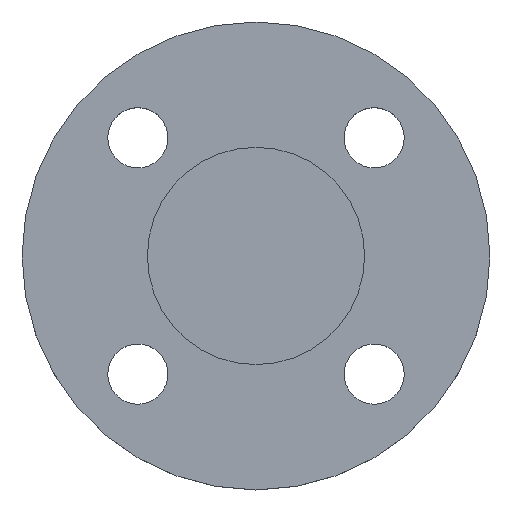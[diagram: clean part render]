
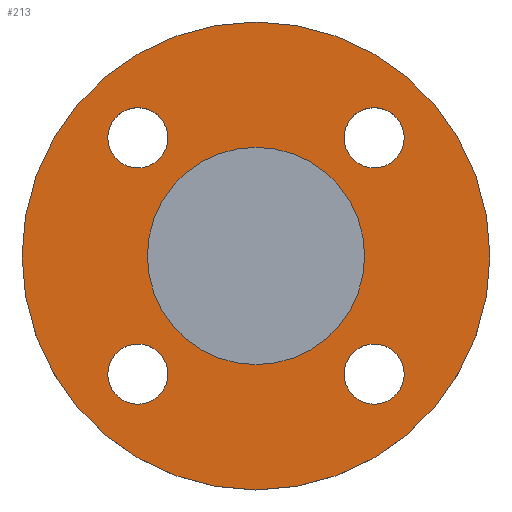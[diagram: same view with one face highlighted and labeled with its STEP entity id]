
A CAD part, top view. The second image highlights one B-rep face of the part: STEP entity #213.
In plain terms, the highlighted planar face has unit normal (0, 0, 1).
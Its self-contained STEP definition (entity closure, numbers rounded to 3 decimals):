
#15 = VERTEX_POINT ( 'NONE', #746 ) ;
#22 = CARTESIAN_POINT ( 'NONE',  ( 35.355, -35.355, -4.5 ) ) ;
#38 = AXIS2_PLACEMENT_3D ( 'NONE', #575, #58, #298 ) ;
#58 = DIRECTION ( 'NONE',  ( 0., 0., -1. ) ) ;
#59 = CARTESIAN_POINT ( 'NONE',  ( 35.355, 35.355, -4.5 ) ) ;
#76 = CARTESIAN_POINT ( 'NONE',  ( -35.355, 35.355, -4.5 ) ) ;
#79 = CARTESIAN_POINT ( 'NONE',  ( 0., 0., -4.5 ) ) ;
#107 = EDGE_LOOP ( 'NONE', ( #310, #510 ) ) ;
#123 = CARTESIAN_POINT ( 'NONE',  ( -44.355, -35.355, -4.5 ) ) ;
#131 = CARTESIAN_POINT ( 'NONE',  ( -32.5, 0., -4.5 ) ) ;
#134 = CARTESIAN_POINT ( 'NONE',  ( -35.355, -35.355, -4.5 ) ) ;
#148 = EDGE_LOOP ( 'NONE', ( #200, #238 ) ) ;
#152 = EDGE_CURVE ( 'NONE', #430, #187, #284, .T. ) ;
#158 = DIRECTION ( 'NONE',  ( 0., 0., -1. ) ) ;
#160 = FACE_BOUND ( 'NONE', #574, .T. ) ;
#165 = AXIS2_PLACEMENT_3D ( 'NONE', #134, #370, #596 ) ;
#168 = AXIS2_PLACEMENT_3D ( 'NONE', #189, #415, #649 ) ;
#176 = EDGE_LOOP ( 'NONE', ( #675, #428 ) ) ;
#180 = CIRCLE ( 'NONE', #608, 9. ) ;
#185 = DIRECTION ( 'NONE',  ( 0., 0., -1. ) ) ;
#187 = VERTEX_POINT ( 'NONE', #561 ) ;
#189 = CARTESIAN_POINT ( 'NONE',  ( 32.5, 0., -4.5 ) ) ;
#197 = EDGE_CURVE ( 'NONE', #269, #216, #534, .T. ) ;
#198 = EDGE_CURVE ( 'NONE', #713, #15, #625, .T. ) ;
#200 = ORIENTED_EDGE ( 'NONE', *, *, #198, .T. ) ;
#208 = CARTESIAN_POINT ( 'NONE',  ( 0., 0., -4.5 ) ) ;
#209 = EDGE_CURVE ( 'NONE', #336, #744, #396, .T. ) ;
#213 = ADVANCED_FACE ( 'NONE', ( #226, #444, #684, #160, #250, #471 ), #714, .T. ) ;
#215 = AXIS2_PLACEMENT_3D ( 'NONE', #742, #222, #442 ) ;
#216 = VERTEX_POINT ( 'NONE', #131 ) ;
#222 = DIRECTION ( 'NONE',  ( 0., 0., -1. ) ) ;
#226 = FACE_BOUND ( 'NONE', #176, .T. ) ;
#231 = ORIENTED_EDGE ( 'NONE', *, *, #152, .F. ) ;
#232 = CIRCLE ( 'NONE', #653, 9. ) ;
#238 = ORIENTED_EDGE ( 'NONE', *, *, #677, .T. ) ;
#242 = CARTESIAN_POINT ( 'NONE',  ( 44.355, -35.355, -4.5 ) ) ;
#245 = ORIENTED_EDGE ( 'NONE', *, *, #667, .T. ) ;
#248 = CARTESIAN_POINT ( 'NONE',  ( -35.355, -35.355, -4.5 ) ) ;
#250 = FACE_BOUND ( 'NONE', #107, .T. ) ;
#253 = DIRECTION ( 'NONE',  ( 0., 0., -1. ) ) ;
#257 = CARTESIAN_POINT ( 'NONE',  ( -70., 0., -4.5 ) ) ;
#269 = VERTEX_POINT ( 'NONE', #482 ) ;
#276 = AXIS2_PLACEMENT_3D ( 'NONE', #79, #319, #537 ) ;
#279 = CARTESIAN_POINT ( 'NONE',  ( 0., 0., -4.5 ) ) ;
#284 = CIRCLE ( 'NONE', #700, 70. ) ;
#287 = CARTESIAN_POINT ( 'NONE',  ( 35.355, -35.355, -4.5 ) ) ;
#288 = CIRCLE ( 'NONE', #709, 9. ) ;
#298 = DIRECTION ( 'NONE',  ( 1., 0., 0. ) ) ;
#299 = DIRECTION ( 'NONE',  ( 0., 0., -1. ) ) ;
#309 = EDGE_LOOP ( 'NONE', ( #618, #231 ) ) ;
#310 = ORIENTED_EDGE ( 'NONE', *, *, #694, .T. ) ;
#315 = DIRECTION ( 'NONE',  ( 0., 0., -1. ) ) ;
#318 = AXIS2_PLACEMENT_3D ( 'NONE', #681, #158, #391 ) ;
#319 = DIRECTION ( 'NONE',  ( 0., 0., -1. ) ) ;
#327 = AXIS2_PLACEMENT_3D ( 'NONE', #248, #469, #711 ) ;
#334 = EDGE_CURVE ( 'NONE', #187, #430, #571, .T. ) ;
#336 = VERTEX_POINT ( 'NONE', #645 ) ;
#345 = VERTEX_POINT ( 'NONE', #532 ) ;
#361 = EDGE_LOOP ( 'NONE', ( #245, #611 ) ) ;
#363 = CARTESIAN_POINT ( 'NONE',  ( -26.355, -35.355, -4.5 ) ) ;
#370 = DIRECTION ( 'NONE',  ( 0., 0., -1. ) ) ;
#391 = DIRECTION ( 'NONE',  ( 1., 0., 0. ) ) ;
#396 = CIRCLE ( 'NONE', #496, 9. ) ;
#412 = DIRECTION ( 'NONE',  ( -1., 0., 0. ) ) ;
#415 = DIRECTION ( 'NONE',  ( 0., 0., 1. ) ) ;
#428 = ORIENTED_EDGE ( 'NONE', *, *, #209, .T. ) ;
#430 = VERTEX_POINT ( 'NONE', #257 ) ;
#442 = DIRECTION ( 'NONE',  ( -1., 0., 0. ) ) ;
#444 = FACE_BOUND ( 'NONE', #361, .T. ) ;
#466 = CIRCLE ( 'NONE', #165, 9. ) ;
#469 = DIRECTION ( 'NONE',  ( 0., 0., -1. ) ) ;
#471 = FACE_OUTER_BOUND ( 'NONE', #309, .T. ) ;
#474 = DIRECTION ( 'NONE',  ( 1., 0., 0. ) ) ;
#482 = CARTESIAN_POINT ( 'NONE',  ( 32.5, 0., -4.5 ) ) ;
#496 = AXIS2_PLACEMENT_3D ( 'NONE', #287, #505, #745 ) ;
#497 = DIRECTION ( 'NONE',  ( 0., 0., -1. ) ) ;
#505 = DIRECTION ( 'NONE',  ( 0., 0., -1. ) ) ;
#510 = ORIENTED_EDGE ( 'NONE', *, *, #197, .T. ) ;
#516 = DIRECTION ( 'NONE',  ( 1., 0., 0. ) ) ;
#520 = ORIENTED_EDGE ( 'NONE', *, *, #543, .T. ) ;
#532 = CARTESIAN_POINT ( 'NONE',  ( 26.355, 35.355, -4.5 ) ) ;
#533 = DIRECTION ( 'NONE',  ( 1., 0., 0. ) ) ;
#534 = CIRCLE ( 'NONE', #215, 32.5 ) ;
#537 = DIRECTION ( 'NONE',  ( -1., 0., 0. ) ) ;
#543 = EDGE_CURVE ( 'NONE', #345, #683, #685, .T. ) ;
#561 = CARTESIAN_POINT ( 'NONE',  ( 70., 0., -4.5 ) ) ;
#571 = CIRCLE ( 'NONE', #672, 70. ) ;
#574 = EDGE_LOOP ( 'NONE', ( #606, #520 ) ) ;
#575 = CARTESIAN_POINT ( 'NONE',  ( 35.355, 35.355, -4.5 ) ) ;
#576 = CARTESIAN_POINT ( 'NONE',  ( -26.355, 35.355, -4.5 ) ) ;
#582 = VERTEX_POINT ( 'NONE', #363 ) ;
#593 = CIRCLE ( 'NONE', #276, 32.5 ) ;
#596 = DIRECTION ( 'NONE',  ( 1., 0., 0. ) ) ;
#606 = ORIENTED_EDGE ( 'NONE', *, *, #719, .T. ) ;
#608 = AXIS2_PLACEMENT_3D ( 'NONE', #76, #315, #533 ) ;
#611 = ORIENTED_EDGE ( 'NONE', *, *, #691, .T. ) ;
#618 = ORIENTED_EDGE ( 'NONE', *, *, #334, .F. ) ;
#625 = CIRCLE ( 'NONE', #318, 9. ) ;
#636 = CIRCLE ( 'NONE', #327, 9. ) ;
#645 = CARTESIAN_POINT ( 'NONE',  ( 26.355, -35.355, -4.5 ) ) ;
#647 = VERTEX_POINT ( 'NONE', #123 ) ;
#649 = DIRECTION ( 'NONE',  ( 1., 0., 0. ) ) ;
#652 = CARTESIAN_POINT ( 'NONE',  ( 44.355, 35.355, -4.5 ) ) ;
#653 = AXIS2_PLACEMENT_3D ( 'NONE', #59, #299, #516 ) ;
#667 = EDGE_CURVE ( 'NONE', #582, #647, #636, .T. ) ;
#672 = AXIS2_PLACEMENT_3D ( 'NONE', #208, #185, #412 ) ;
#675 = ORIENTED_EDGE ( 'NONE', *, *, #678, .T. ) ;
#677 = EDGE_CURVE ( 'NONE', #15, #713, #180, .T. ) ;
#678 = EDGE_CURVE ( 'NONE', #744, #336, #288, .T. ) ;
#681 = CARTESIAN_POINT ( 'NONE',  ( -35.355, 35.355, -4.5 ) ) ;
#683 = VERTEX_POINT ( 'NONE', #652 ) ;
#684 = FACE_BOUND ( 'NONE', #148, .T. ) ;
#685 = CIRCLE ( 'NONE', #38, 9. ) ;
#691 = EDGE_CURVE ( 'NONE', #647, #582, #466, .T. ) ;
#694 = EDGE_CURVE ( 'NONE', #216, #269, #593, .T. ) ;
#700 = AXIS2_PLACEMENT_3D ( 'NONE', #279, #497, #737 ) ;
#709 = AXIS2_PLACEMENT_3D ( 'NONE', #22, #253, #474 ) ;
#711 = DIRECTION ( 'NONE',  ( 1., 0., 0. ) ) ;
#713 = VERTEX_POINT ( 'NONE', #576 ) ;
#714 = PLANE ( 'NONE',  #168 ) ;
#719 = EDGE_CURVE ( 'NONE', #683, #345, #232, .T. ) ;
#737 = DIRECTION ( 'NONE',  ( -1., 0., 0. ) ) ;
#742 = CARTESIAN_POINT ( 'NONE',  ( 0., 0., -4.5 ) ) ;
#744 = VERTEX_POINT ( 'NONE', #242 ) ;
#745 = DIRECTION ( 'NONE',  ( 1., 0., 0. ) ) ;
#746 = CARTESIAN_POINT ( 'NONE',  ( -44.355, 35.355, -4.5 ) ) ;
